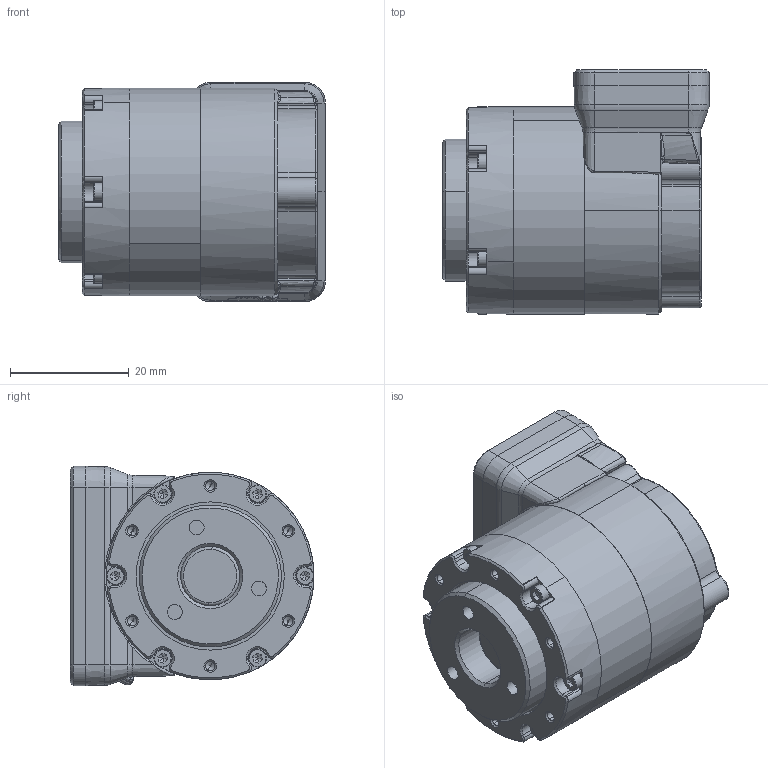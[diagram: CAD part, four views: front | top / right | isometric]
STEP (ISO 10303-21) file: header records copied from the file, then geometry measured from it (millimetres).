
FILE_DESCRIPTION (( 'STEP AP214' ), '1' );
FILE_NAME ('QDD-EL20-36_v2_3.STEP', '2019-09-29T07:21:14', ( 'Microsoft' ), ( 'Microsoft' ), 'SwSTEP 2.0', 'SolidWorks 2018', '' );
FILE_SCHEMA (( 'AUTOMOTIVE_DESIGN' ));
Length unit declared in the file: millimetre
Products named in the file (1): QDD-EL20-36_v2_3
Bounding box: 45.03 x 41.13 x 37 mm (x, y, z)
Volume: 41922.9 mm3; surface area: 22430.7 mm2
Topology: 17 solids, 39 shells, 1441 faces, 3553 edges, 2129 vertices
Faces by surface type: cylinder 501, plane 433, cone 320, torus 81, bspline 80, sphere 26
Entity records: 63110 total; most frequent: CARTESIAN_POINT 14614, ORIENTED_EDGE 7000, DIRECTION 6404, EDGE_CURVE 3500, AXIS2_PLACEMENT_3D 2362, VERTEX_POINT 2129, VECTOR 1680, LINE 1680
